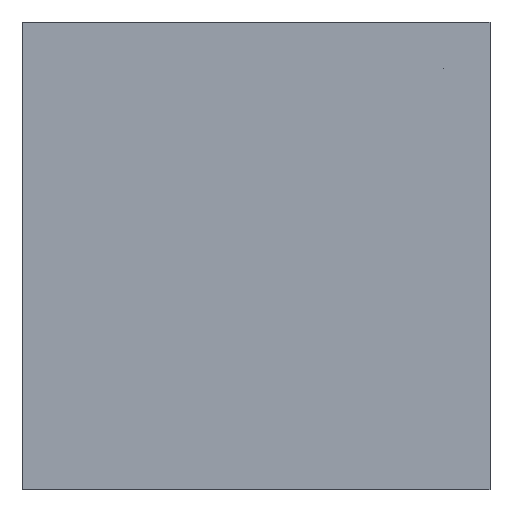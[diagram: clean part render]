
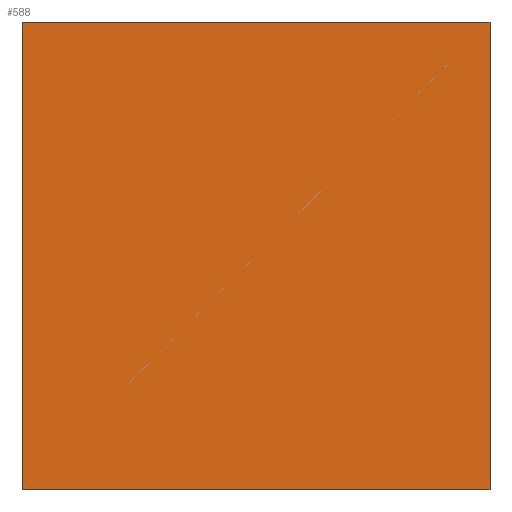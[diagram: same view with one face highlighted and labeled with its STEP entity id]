
A CAD part, front view. The second image highlights one B-rep face of the part: STEP entity #588.
In plain terms, the highlighted planar face has unit normal (0, -1, 0).
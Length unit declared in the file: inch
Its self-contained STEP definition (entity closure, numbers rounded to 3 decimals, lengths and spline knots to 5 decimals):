
#54=FACE_OUTER_BOUND('',#86,.T.);
#86=EDGE_LOOP('',(#525,#526,#527,#528));
#157=LINE('',#926,#235);
#160=LINE('',#931,#238);
#162=LINE('',#935,#240);
#164=LINE('',#938,#242);
#235=VECTOR('',#763,0.3937);
#238=VECTOR('',#768,0.3937);
#240=VECTOR('',#772,0.3937);
#242=VECTOR('',#776,0.3937);
#291=VERTEX_POINT('',#924);
#292=VERTEX_POINT('',#925);
#293=VERTEX_POINT('',#930);
#294=VERTEX_POINT('',#934);
#365=EDGE_CURVE('',#291,#292,#157,.T.);
#368=EDGE_CURVE('',#293,#291,#160,.T.);
#370=EDGE_CURVE('',#294,#293,#162,.T.);
#372=EDGE_CURVE('',#292,#294,#164,.T.);
#525=ORIENTED_EDGE('',*,*,#372,.F.);
#526=ORIENTED_EDGE('',*,*,#365,.F.);
#527=ORIENTED_EDGE('',*,*,#368,.F.);
#528=ORIENTED_EDGE('',*,*,#370,.F.);
#558=PLANE('',#638);
#588=ADVANCED_FACE('',(#54),#558,.F.);
#638=AXIS2_PLACEMENT_3D('',#939,#777,#778);
#763=DIRECTION('',(1.,0.,0.));
#768=DIRECTION('',(0.,0.,1.));
#772=DIRECTION('',(-1.,0.,0.));
#776=DIRECTION('',(0.,0.,-1.));
#777=DIRECTION('center_axis',(0.,1.,0.));
#778=DIRECTION('ref_axis',(0.,0.,1.));
#924=CARTESIAN_POINT('',(0.,0.,0.));
#925=CARTESIAN_POINT('',(300.,0.,0.));
#926=CARTESIAN_POINT('',(0.,0.,0.));
#930=CARTESIAN_POINT('',(0.,0.,-300.));
#931=CARTESIAN_POINT('',(0.,0.,-300.));
#934=CARTESIAN_POINT('',(300.,0.,-300.));
#935=CARTESIAN_POINT('',(300.,0.,-300.));
#938=CARTESIAN_POINT('',(300.,0.,0.));
#939=CARTESIAN_POINT('Origin',(150.,0.,-150.));
